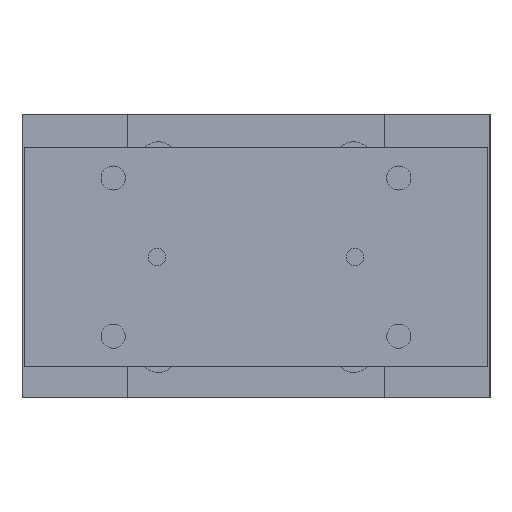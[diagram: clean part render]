
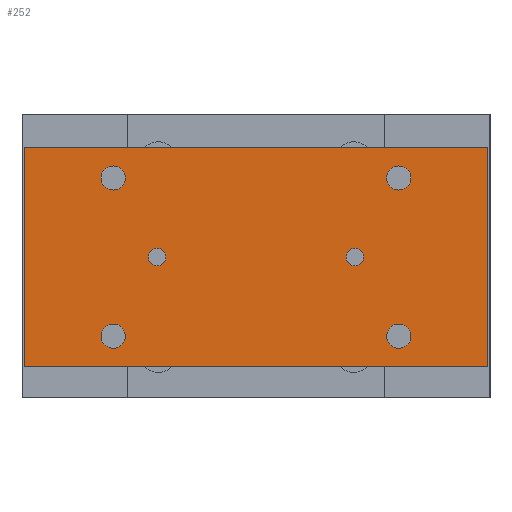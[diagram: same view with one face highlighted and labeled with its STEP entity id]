
A CAD part, left-side view. The second image highlights one B-rep face of the part: STEP entity #252.
In plain terms, the highlighted planar face has unit normal (-1, 0, 0).
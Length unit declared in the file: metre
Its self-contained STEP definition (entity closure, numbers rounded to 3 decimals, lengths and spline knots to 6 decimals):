
#252 = ADVANCED_FACE( '', ( #704, #705, #706, #707, #708, #709, #710 ), #711, .T. );
#704 = FACE_BOUND( '', #1502, .T. );
#705 = FACE_BOUND( '', #1503, .T. );
#706 = FACE_BOUND( '', #1504, .T. );
#707 = FACE_BOUND( '', #1505, .T. );
#708 = FACE_BOUND( '', #1506, .T. );
#709 = FACE_BOUND( '', #1507, .T. );
#710 = FACE_OUTER_BOUND( '', #1508, .T. );
#711 = PLANE( '', #1509 );
#1502 = EDGE_LOOP( '', ( #2310 ) );
#1503 = EDGE_LOOP( '', ( #2311 ) );
#1504 = EDGE_LOOP( '', ( #2312 ) );
#1505 = EDGE_LOOP( '', ( #2313 ) );
#1506 = EDGE_LOOP( '', ( #2314 ) );
#1507 = EDGE_LOOP( '', ( #2315 ) );
#1508 = EDGE_LOOP( '', ( #2316, #2317, #2318, #2319 ) );
#1509 = AXIS2_PLACEMENT_3D( '', #2320, #2321, #2322 );
#2310 = ORIENTED_EDGE( '', *, *, #3804, .F. );
#2311 = ORIENTED_EDGE( '', *, *, #3805, .F. );
#2312 = ORIENTED_EDGE( '', *, *, #3806, .F. );
#2313 = ORIENTED_EDGE( '', *, *, #3807, .F. );
#2314 = ORIENTED_EDGE( '', *, *, #3808, .F. );
#2315 = ORIENTED_EDGE( '', *, *, #3809, .T. );
#2316 = ORIENTED_EDGE( '', *, *, #3810, .T. );
#2317 = ORIENTED_EDGE( '', *, *, #3811, .T. );
#2318 = ORIENTED_EDGE( '', *, *, #3812, .T. );
#2319 = ORIENTED_EDGE( '', *, *, #3813, .T. );
#2320 = CARTESIAN_POINT( '', ( -0.1445, -0.1055, -0.015 ) );
#2321 = DIRECTION( '', ( -1., 0., 0. ) );
#2322 = DIRECTION( '', ( 0., -1., 0. ) );
#3804 = EDGE_CURVE( '', #4383, #4383, #4384, .T. );
#3805 = EDGE_CURVE( '', #4385, #4385, #4386, .T. );
#3806 = EDGE_CURVE( '', #4387, #4387, #4388, .T. );
#3807 = EDGE_CURVE( '', #4389, #4389, #4390, .T. );
#3808 = EDGE_CURVE( '', #4391, #4391, #4392, .T. );
#3809 = EDGE_CURVE( '', #4393, #4393, #4394, .T. );
#3810 = EDGE_CURVE( '', #4395, #4396, #4397, .T. );
#3811 = EDGE_CURVE( '', #4396, #4398, #4399, .T. );
#3812 = EDGE_CURVE( '', #4398, #4400, #4401, .T. );
#3813 = EDGE_CURVE( '', #4400, #4395, #4402, .T. );
#4383 = VERTEX_POINT( '', #5246 );
#4384 = CIRCLE( '', #5247, 0.0055 );
#4385 = VERTEX_POINT( '', #5248 );
#4386 = CIRCLE( '', #5249, 0.0055 );
#4387 = VERTEX_POINT( '', #5250 );
#4388 = CIRCLE( '', #5251, 0.0055 );
#4389 = VERTEX_POINT( '', #5252 );
#4390 = CIRCLE( '', #5253, 0.0055 );
#4391 = VERTEX_POINT( '', #5254 );
#4392 = CIRCLE( '', #5255, 0.004 );
#4393 = VERTEX_POINT( '', #5256 );
#4394 = CIRCLE( '', #5257, 0.004 );
#4395 = VERTEX_POINT( '', #5258 );
#4396 = VERTEX_POINT( '', #5259 );
#4397 = LINE( '', #5260, #5261 );
#4398 = VERTEX_POINT( '', #5262 );
#4399 = LINE( '', #5263, #5264 );
#4400 = VERTEX_POINT( '', #5265 );
#4401 = LINE( '', #5266, #5267 );
#4402 = LINE( '', #5268, #5269 );
#5246 = CARTESIAN_POINT( '', ( -0.1445, -0.0705, -0.101 ) );
#5247 = AXIS2_PLACEMENT_3D( '', #6472, #6473, #6474 );
#5248 = CARTESIAN_POINT( '', ( -0.1445, 0.0595, -0.101 ) );
#5249 = AXIS2_PLACEMENT_3D( '', #6475, #6476, #6477 );
#5250 = CARTESIAN_POINT( '', ( -0.1445, -0.0705, -0.029 ) );
#5251 = AXIS2_PLACEMENT_3D( '', #6478, #6479, #6480 );
#5252 = CARTESIAN_POINT( '', ( -0.1445, 0.0595, -0.029 ) );
#5253 = AXIS2_PLACEMENT_3D( '', #6481, #6482, #6483 );
#5254 = CARTESIAN_POINT( '', ( -0.1445, -0.045, -0.069 ) );
#5255 = AXIS2_PLACEMENT_3D( '', #6484, #6485, #6486 );
#5256 = CARTESIAN_POINT( '', ( -0.1445, 0.045, -0.069 ) );
#5257 = AXIS2_PLACEMENT_3D( '', #6487, #6488, #6489 );
#5258 = CARTESIAN_POINT( '', ( -0.1445, -0.1055, -0.115 ) );
#5259 = CARTESIAN_POINT( '', ( -0.1445, -0.1055, -0.015 ) );
#5260 = CARTESIAN_POINT( '', ( -0.1445, -0.1055, -0.115 ) );
#5261 = VECTOR( '', #6490, 1. );
#5262 = CARTESIAN_POINT( '', ( -0.1445, 0.1055, -0.015 ) );
#5263 = CARTESIAN_POINT( '', ( -0.1445, -0.1055, -0.015 ) );
#5264 = VECTOR( '', #6491, 1. );
#5265 = CARTESIAN_POINT( '', ( -0.1445, 0.1055, -0.115 ) );
#5266 = CARTESIAN_POINT( '', ( -0.1445, 0.1055, -0.015 ) );
#5267 = VECTOR( '', #6492, 1. );
#5268 = CARTESIAN_POINT( '', ( -0.1445, 0.1055, -0.115 ) );
#5269 = VECTOR( '', #6493, 1. );
#6472 = CARTESIAN_POINT( '', ( -0.1445, -0.065, -0.101 ) );
#6473 = DIRECTION( '', ( -1., 0., 0. ) );
#6474 = DIRECTION( '', ( 0., -1., 0. ) );
#6475 = CARTESIAN_POINT( '', ( -0.1445, 0.065, -0.101 ) );
#6476 = DIRECTION( '', ( -1., 0., 0. ) );
#6477 = DIRECTION( '', ( 0., -1., 0. ) );
#6478 = CARTESIAN_POINT( '', ( -0.1445, -0.065, -0.029 ) );
#6479 = DIRECTION( '', ( -1., 0., 0. ) );
#6480 = DIRECTION( '', ( 0., -1., 0. ) );
#6481 = CARTESIAN_POINT( '', ( -0.1445, 0.065, -0.029 ) );
#6482 = DIRECTION( '', ( -1., 0., 0. ) );
#6483 = DIRECTION( '', ( 0., -1., 0. ) );
#6484 = CARTESIAN_POINT( '', ( -0.1445, -0.045, -0.065 ) );
#6485 = DIRECTION( '', ( -1., 0., 0. ) );
#6486 = DIRECTION( '', ( 0., 0., -1. ) );
#6487 = CARTESIAN_POINT( '', ( -0.1445, 0.045, -0.065 ) );
#6488 = DIRECTION( '', ( 1., 0., 0. ) );
#6489 = DIRECTION( '', ( 0., 0., -1. ) );
#6490 = DIRECTION( '', ( 0., 0., 1. ) );
#6491 = DIRECTION( '', ( 0., 1., 0. ) );
#6492 = DIRECTION( '', ( 0., 0., -1. ) );
#6493 = DIRECTION( '', ( 0., -1., 0. ) );
